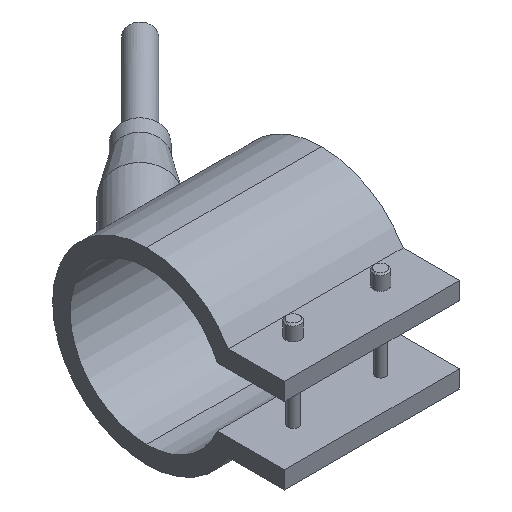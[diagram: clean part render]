
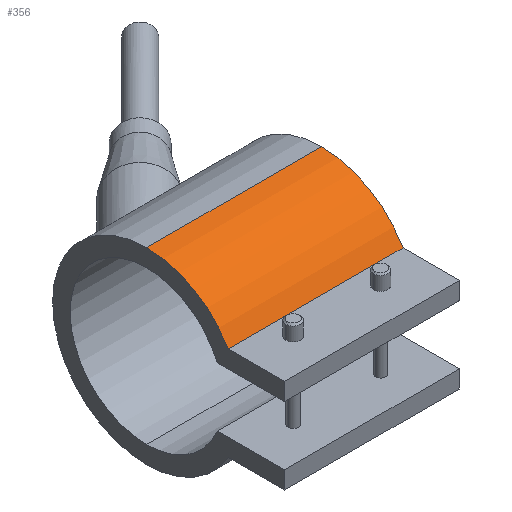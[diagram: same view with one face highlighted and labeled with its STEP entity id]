
A CAD part, isometric view. The second image highlights one B-rep face of the part: STEP entity #356.
In plain terms, the highlighted cylindrical face has radius 21.5 mm (diameter 43 mm), a partial arc.
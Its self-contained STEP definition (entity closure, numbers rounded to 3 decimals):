
#236=CARTESIAN_POINT('Line Origine',(20.,0.,21.5)) ;
#240=CARTESIAN_POINT('Vertex',(20.,0.,21.5)) ;
#242=CARTESIAN_POINT('Vertex',(-20.,0.,21.5)) ;
#326=CARTESIAN_POINT('Axis2P3D Location',(20.,0.,0.)) ;
#331=CARTESIAN_POINT('Axis2P3D Location',(-20.,0.,0.)) ;
#335=CARTESIAN_POINT('Vertex',(-20.,-18.62,10.75)) ;
#338=CARTESIAN_POINT('Line Origine',(20.,-18.62,10.75)) ;
#342=CARTESIAN_POINT('Vertex',(20.,-18.62,10.75)) ;
#345=CARTESIAN_POINT('Axis2P3D Location',(20.,0.,0.)) ;
#237=DIRECTION('Vector Direction',(1.,0.,0.)) ;
#327=DIRECTION('Axis2P3D Direction',(1.,0.,-0.)) ;
#328=DIRECTION('Axis2P3D XDirection',(0.,0.,1.)) ;
#332=DIRECTION('Axis2P3D Direction',(1.,0.,-0.)) ;
#339=DIRECTION('Vector Direction',(1.,0.,0.)) ;
#346=DIRECTION('Axis2P3D Direction',(1.,0.,-0.)) ;
#329=AXIS2_PLACEMENT_3D('Cylinder Axis2P3D',#326,#327,#328) ;
#333=AXIS2_PLACEMENT_3D('Circle Axis2P3D',#331,#332,$) ;
#347=AXIS2_PLACEMENT_3D('Circle Axis2P3D',#345,#346,$) ;
#351=ORIENTED_EDGE('',*,*,#244,.T.) ;
#352=ORIENTED_EDGE('',*,*,#337,.T.) ;
#353=ORIENTED_EDGE('',*,*,#344,.F.) ;
#354=ORIENTED_EDGE('',*,*,#349,.F.) ;
#238=VECTOR('Line Direction',#237,1.) ;
#340=VECTOR('Line Direction',#339,1.) ;
#356=ADVANCED_FACE('29035040',(#355),#330,.T.) ;
#334=CIRCLE('generated circle',#333,21.5) ;
#348=CIRCLE('generated circle',#347,21.5) ;
#330=CYLINDRICAL_SURFACE('generated cylinder',#329,21.5) ;
#244=EDGE_CURVE('',#241,#243,#239,.F.) ;
#337=EDGE_CURVE('',#243,#336,#334,.T.) ;
#344=EDGE_CURVE('',#343,#336,#341,.F.) ;
#349=EDGE_CURVE('',#241,#343,#348,.T.) ;
#350=EDGE_LOOP('',(#351,#352,#353,#354)) ;
#355=FACE_OUTER_BOUND('',#350,.T.) ;
#239=LINE('Line',#236,#238) ;
#341=LINE('Line',#338,#340) ;
#241=VERTEX_POINT('',#240) ;
#243=VERTEX_POINT('',#242) ;
#336=VERTEX_POINT('',#335) ;
#343=VERTEX_POINT('',#342) ;
